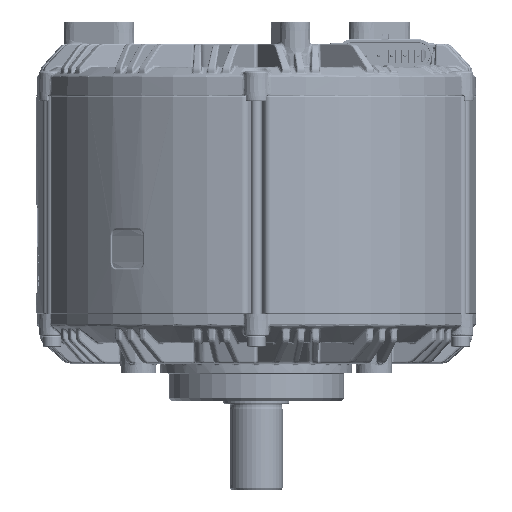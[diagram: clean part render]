
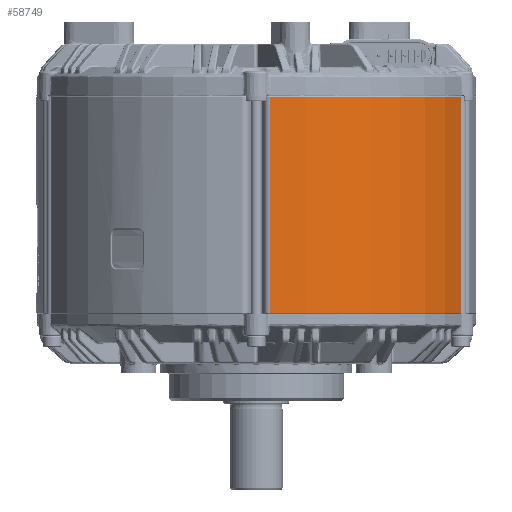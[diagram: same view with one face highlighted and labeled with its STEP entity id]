
A CAD part, front view. The second image highlights one B-rep face of the part: STEP entity #58749.
In plain terms, the highlighted cylindrical face has radius 100.5 mm (diameter 201 mm), a partial arc.
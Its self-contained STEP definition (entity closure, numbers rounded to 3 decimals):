
#8472 = DIRECTION ( 'NONE',  ( 0., 0., -1. ) ) ;
#16699 = CARTESIAN_POINT ( 'NONE',  ( -93.378, -37.159, 49.1 ) ) ;
#41964 = DIRECTION ( 'NONE',  ( 1., 0., 0. ) ) ;
#47058 = VECTOR ( 'NONE', #8472, 1000. ) ;
#49898 = ORIENTED_EDGE ( 'NONE', *, *, #395000, .T. ) ;
#58749 = ADVANCED_FACE ( 'NONE', ( #341015 ), #408791, .T. ) ;
#70045 = VERTEX_POINT ( 'NONE', #257262 ) ;
#70077 = CIRCLE ( 'NONE', #350191, 100.5 ) ;
#76237 = ORIENTED_EDGE ( 'NONE', *, *, #243003, .T. ) ;
#115197 = AXIS2_PLACEMENT_3D ( 'NONE', #333621, #451325, #483983 ) ;
#115772 = AXIS2_PLACEMENT_3D ( 'NONE', #459409, #384197, #349066 ) ;
#140684 = EDGE_CURVE ( 'NONE', #147643, #194619, #379962, .T. ) ;
#147643 = VERTEX_POINT ( 'NONE', #387996 ) ;
#148945 = LINE ( 'NONE', #243910, #47058 ) ;
#167278 = VECTOR ( 'NONE', #304761, 1000. ) ;
#176730 = EDGE_LOOP ( 'NONE', ( #382047, #76237, #273095, #49898 ) ) ;
#182996 = EDGE_CURVE ( 'NONE', #343551, #70045, #148945, .T. ) ;
#194619 = VERTEX_POINT ( 'NONE', #437163 ) ;
#227451 = DIRECTION ( 'NONE',  ( 0., 0., 1. ) ) ;
#229614 = CARTESIAN_POINT ( 'NONE',  ( -6.485, -100.291, -57.58 ) ) ;
#243003 = EDGE_CURVE ( 'NONE', #70045, #147643, #70077, .T. ) ;
#243910 = CARTESIAN_POINT ( 'NONE',  ( -93.378, -37.159, -57.58 ) ) ;
#257262 = CARTESIAN_POINT ( 'NONE',  ( -93.378, -37.159, -49.3 ) ) ;
#273095 = ORIENTED_EDGE ( 'NONE', *, *, #140684, .T. ) ;
#304761 = DIRECTION ( 'NONE',  ( 0., 0., 1. ) ) ;
#333621 = CARTESIAN_POINT ( 'NONE',  ( 0., 0., -57.58 ) ) ;
#341015 = FACE_OUTER_BOUND ( 'NONE', #176730, .T. ) ;
#343551 = VERTEX_POINT ( 'NONE', #16699 ) ;
#349066 = DIRECTION ( 'NONE',  ( -1., 0., 0. ) ) ;
#350191 = AXIS2_PLACEMENT_3D ( 'NONE', #385232, #227451, #41964 ) ;
#379962 = LINE ( 'NONE', #229614, #167278 ) ;
#382047 = ORIENTED_EDGE ( 'NONE', *, *, #182996, .T. ) ;
#384197 = DIRECTION ( 'NONE',  ( 0., 0., -1. ) ) ;
#385232 = CARTESIAN_POINT ( 'NONE',  ( 0., 0., -49.3 ) ) ;
#387996 = CARTESIAN_POINT ( 'NONE',  ( -6.485, -100.291, -49.3 ) ) ;
#395000 = EDGE_CURVE ( 'NONE', #194619, #343551, #419848, .T. ) ;
#408791 = CYLINDRICAL_SURFACE ( 'NONE', #115197, 100.5 ) ;
#419848 = CIRCLE ( 'NONE', #115772, 100.5 ) ;
#437163 = CARTESIAN_POINT ( 'NONE',  ( -6.485, -100.291, 49.1 ) ) ;
#451325 = DIRECTION ( 'NONE',  ( 0., 0., 1. ) ) ;
#459409 = CARTESIAN_POINT ( 'NONE',  ( 0., 0., 49.1 ) ) ;
#483983 = DIRECTION ( 'NONE',  ( 1., 0., 0. ) ) ;
